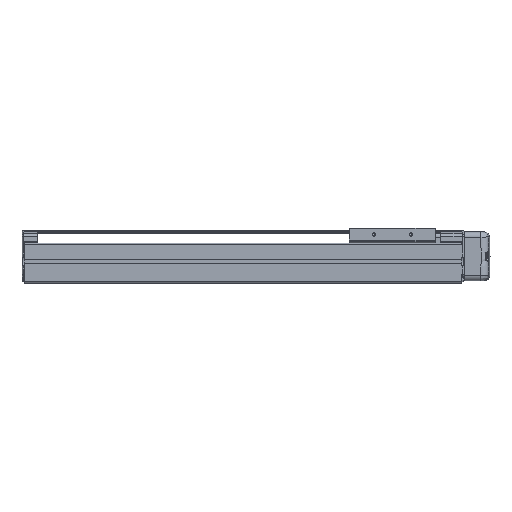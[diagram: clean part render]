
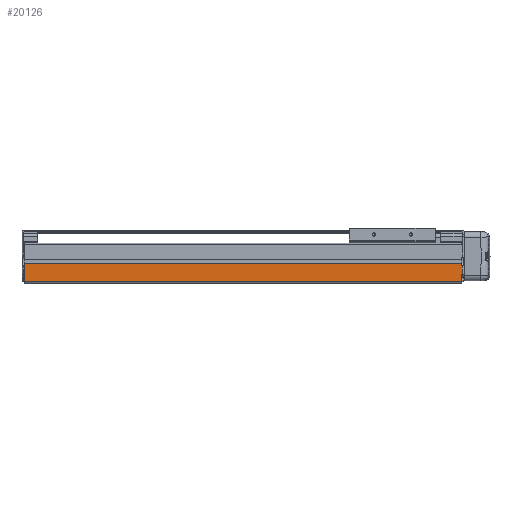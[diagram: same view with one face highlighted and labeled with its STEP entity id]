
A CAD part, top view. The second image highlights one B-rep face of the part: STEP entity #20126.
In plain terms, the highlighted planar face has unit normal (0, 0, 1).
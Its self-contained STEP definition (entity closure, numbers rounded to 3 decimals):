
#4292=DIRECTION('',(1.,0.,0.));
#4293=VECTOR('',#4292,0.7);
#4294=CARTESIAN_POINT('',(591.,14.,39.));
#4295=LINE('',#4294,#4293);
#4300=DIRECTION('',(0.,1.,0.));
#4301=VECTOR('',#4300,3.9);
#4302=CARTESIAN_POINT('',(591.,25.,39.));
#4303=LINE('',#4302,#4301);
#4304=DIRECTION('',(0.,1.,0.));
#4305=VECTOR('',#4304,9.5);
#4306=CARTESIAN_POINT('',(591.,4.5,39.));
#4307=LINE('',#4306,#4305);
#4308=DIRECTION('',(0.,-1.,0.));
#4309=VECTOR('',#4308,24.4);
#4310=CARTESIAN_POINT('',(0.,28.9,39.));
#4311=LINE('',#4310,#4309);
#4321=DIRECTION('',(-1.,0.,0.));
#4322=VECTOR('',#4321,0.7);
#4323=CARTESIAN_POINT('',(591.7,25.,39.));
#4324=LINE('',#4323,#4322);
#4995=DIRECTION('',(0.,1.,0.));
#4996=VECTOR('',#4995,11.);
#4997=CARTESIAN_POINT('',(591.7,14.,39.));
#4998=LINE('',#4997,#4996);
#5096=DIRECTION('',(1.,0.,0.));
#5097=VECTOR('',#5096,591.);
#5098=CARTESIAN_POINT('',(0.,4.5,39.));
#5099=LINE('',#5098,#5097);
#5292=DIRECTION('',(-1.,0.,0.));
#5293=VECTOR('',#5292,591.);
#5294=CARTESIAN_POINT('',(591.,28.9,39.));
#5295=LINE('',#5294,#5293);
#12803=CARTESIAN_POINT('',(0.,4.5,39.));
#12804=VERTEX_POINT('',#12803);
#12805=CARTESIAN_POINT('',(0.,28.9,39.));
#12806=VERTEX_POINT('',#12805);
#12919=CARTESIAN_POINT('',(591.,28.9,39.));
#12920=VERTEX_POINT('',#12919);
#12922=CARTESIAN_POINT('',(591.,4.5,39.));
#12924=VERTEX_POINT('',#12922);
#13786=CARTESIAN_POINT('',(591.7,14.,39.));
#13787=CARTESIAN_POINT('',(591.7,25.,39.));
#13788=VERTEX_POINT('',#13786);
#13789=VERTEX_POINT('',#13787);
#14382=CARTESIAN_POINT('',(591.,14.,39.));
#14383=VERTEX_POINT('',#14382);
#14384=CARTESIAN_POINT('',(591.,25.,39.));
#14386=VERTEX_POINT('',#14384);
#20107=CARTESIAN_POINT('',(295.5,16.7,39.));
#20108=DIRECTION('',(0.,0.,1.));
#20109=DIRECTION('',(0.,-1.,0.));
#20110=AXIS2_PLACEMENT_3D('',#20107,#20108,#20109);
#20111=PLANE('',#20110);
#20112=ORIENTED_EDGE('',*,*,#17980,.F.);
#20114=ORIENTED_EDGE('',*,*,#20113,.F.);
#20116=ORIENTED_EDGE('',*,*,#20115,.F.);
#20117=ORIENTED_EDGE('',*,*,#20099,.F.);
#20118=ORIENTED_EDGE('',*,*,#18126,.F.);
#20120=ORIENTED_EDGE('',*,*,#20119,.F.);
#20121=ORIENTED_EDGE('',*,*,#17480,.F.);
#20123=ORIENTED_EDGE('',*,*,#20122,.F.);
#20124=EDGE_LOOP('',(#20112,#20114,#20116,#20117,#20118,#20120,#20121,#20123));
#20125=FACE_OUTER_BOUND('',#20124,.F.);
#20126=ADVANCED_FACE('',(#20125),#20111,.T.);
#17480=EDGE_CURVE('',#12806,#12804,#4311,.T.);
#17980=EDGE_CURVE('',#14386,#12920,#4303,.T.);
#18126=EDGE_CURVE('',#12924,#14383,#4307,.T.);
#20099=EDGE_CURVE('',#14383,#13788,#4295,.T.);
#20113=EDGE_CURVE('',#13789,#14386,#4324,.T.);
#20115=EDGE_CURVE('',#13788,#13789,#4998,.T.);
#20119=EDGE_CURVE('',#12804,#12924,#5099,.T.);
#20122=EDGE_CURVE('',#12920,#12806,#5295,.T.);
